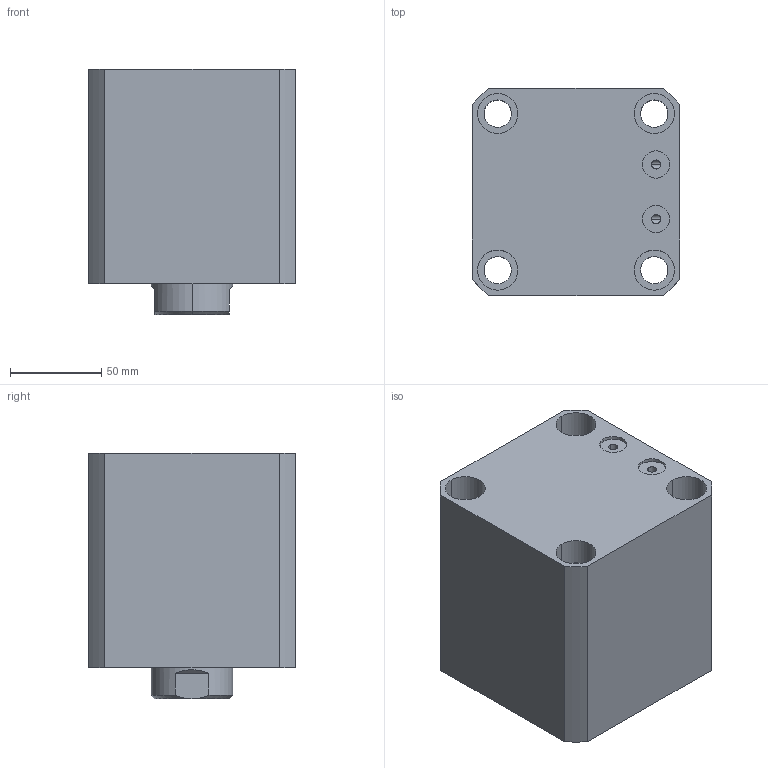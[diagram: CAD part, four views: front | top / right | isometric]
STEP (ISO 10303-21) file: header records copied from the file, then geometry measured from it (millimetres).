
FILE_DESCRIPTION (( 'STEP AP214' ), '1' );
FILE_NAME ('chtb-sdmb80x40n_asm.STEP', '2018-05-25T02:55:32', ( 'Windows' ), ( 'Microsoft' ), 'SwSTEP 2.0', 'SolidWorks 2015', '' );
FILE_SCHEMA (( 'AUTOMOTIVE_DESIGN' ));
Length unit declared in the file: millimetre
Products named in the file (4): CHTB-SDMB80X40NBT; CHTB-SD80X40NHSG; CHTB-SD80QG; chtb-sdmb80x40n_asm
Assembly tree (3 placements, depth 2):
  chtb-sdmb80x40n_asm
    CHTB-SD80QG
    CHTB-SD80X40NHSG
    CHTB-SDMB80X40NBT
Bounding box: 114 x 114 x 135 mm (x, y, z)
Volume: 1256516.7 mm3; surface area: 191076.7 mm2
Topology: 3 solids, 3 shells, 190 faces, 516 edges, 345 vertices
Faces by surface type: cylinder 107, plane 35, torus 18, cone 16, bspline 14
Entity records: 15174 total; most frequent: CARTESIAN_POINT 10467, ORIENTED_EDGE 1020, DIRECTION 879, EDGE_CURVE 510, AXIS2_PLACEMENT_3D 368, VERTEX_POINT 345, EDGE_LOOP 227, FACE_OUTER_BOUND 190
